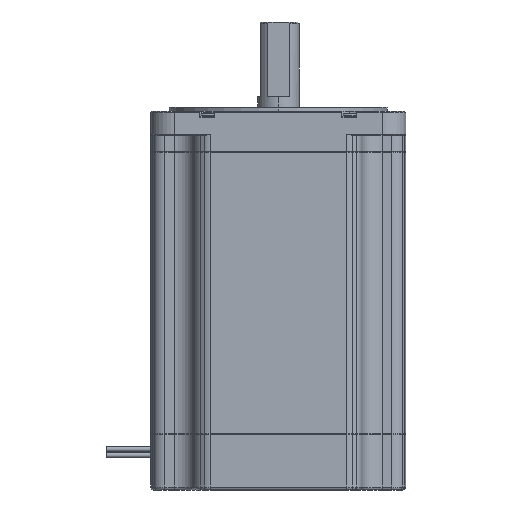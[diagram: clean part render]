
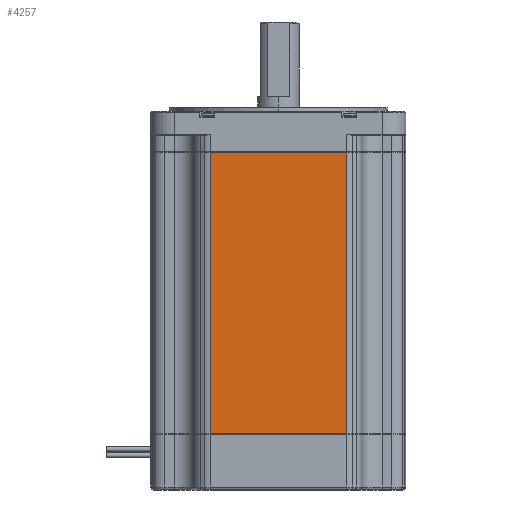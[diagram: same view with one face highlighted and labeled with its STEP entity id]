
A CAD part, left-side view. The second image highlights one B-rep face of the part: STEP entity #4257.
In plain terms, the highlighted planar face has unit normal (-1, 0, 0).
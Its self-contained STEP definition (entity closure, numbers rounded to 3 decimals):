
#443 = CARTESIAN_POINT ( 'NONE',  ( -42.75, 22.879, -13.7 ) ) ;
#444 = DIRECTION ( 'NONE',  ( 0., 1., 0. ) ) ;
#445 = CARTESIAN_POINT ( 'NONE',  ( -42.75, 22.879, -108.2 ) ) ;
#446 = DIRECTION ( 'NONE',  ( 0., 0., 1. ) ) ;
#447 = CARTESIAN_POINT ( 'NONE',  ( -42.75, 22.879, -108. ) ) ;
#448 = DIRECTION ( 'NONE',  ( 0., -1., 0. ) ) ;
#452 = CARTESIAN_POINT ( 'NONE',  ( -42.75, -22.879, -108.2 ) ) ;
#453 = DIRECTION ( 'NONE',  ( 0., 0., 1. ) ) ;
#1237 = LINE ( 'NONE', #452, #14371 ) ;
#1238 = LINE ( 'NONE', #447, #14368 ) ;
#1239 = LINE ( 'NONE', #445, #14366 ) ;
#1240 = LINE ( 'NONE', #443, #14365 ) ;
#2217 = CARTESIAN_POINT ( 'NONE',  ( -42.75, -22.879, -108. ) ) ;
#2218 = CARTESIAN_POINT ( 'NONE',  ( -42.75, -22.879, -13.7 ) ) ;
#2219 = CARTESIAN_POINT ( 'NONE',  ( -42.75, 22.879, -108. ) ) ;
#2220 = CARTESIAN_POINT ( 'NONE',  ( -42.75, 22.879, -13.7 ) ) ;
#2850 = FACE_OUTER_BOUND ( 'NONE', #7369, .T. ) ;
#4257 = ADVANCED_FACE ( 'NONE', ( #2850 ), #10190, .F. ) ;
#7369 = EDGE_LOOP ( 'NONE', ( #10452, #10449, #10450, #10448 ) ) ;
#8897 = AXIS2_PLACEMENT_3D ( 'NONE', #10189, #10188, #10186 ) ;
#10186 = DIRECTION ( 'NONE',  ( 0., 0., -1. ) ) ;
#10188 = DIRECTION ( 'NONE',  ( 1., 0., 0. ) ) ;
#10189 = CARTESIAN_POINT ( 'NONE',  ( -42.75, 22.879, -108.2 ) ) ;
#10190 = PLANE ( 'NONE',  #8897 ) ;
#10448 = ORIENTED_EDGE ( 'NONE', *, *, #11489, .T. ) ;
#10449 = ORIENTED_EDGE ( 'NONE', *, *, #11491, .T. ) ;
#10450 = ORIENTED_EDGE ( 'NONE', *, *, #11493, .T. ) ;
#10452 = ORIENTED_EDGE ( 'NONE', *, *, #11490, .F. ) ;
#11489 = EDGE_CURVE ( 'NONE', #16988, #16990, #1240, .T. ) ;
#11490 = EDGE_CURVE ( 'NONE', #16989, #16990, #1239, .T. ) ;
#11491 = EDGE_CURVE ( 'NONE', #16989, #16987, #1238, .T. ) ;
#11493 = EDGE_CURVE ( 'NONE', #16987, #16988, #1237, .T. ) ;
#14365 = VECTOR ( 'NONE', #444, 1000. ) ;
#14366 = VECTOR ( 'NONE', #446, 1000. ) ;
#14368 = VECTOR ( 'NONE', #448, 1000. ) ;
#14371 = VECTOR ( 'NONE', #453, 1000. ) ;
#16987 = VERTEX_POINT ( 'NONE', #2217 ) ;
#16988 = VERTEX_POINT ( 'NONE', #2218 ) ;
#16989 = VERTEX_POINT ( 'NONE', #2219 ) ;
#16990 = VERTEX_POINT ( 'NONE', #2220 ) ;
